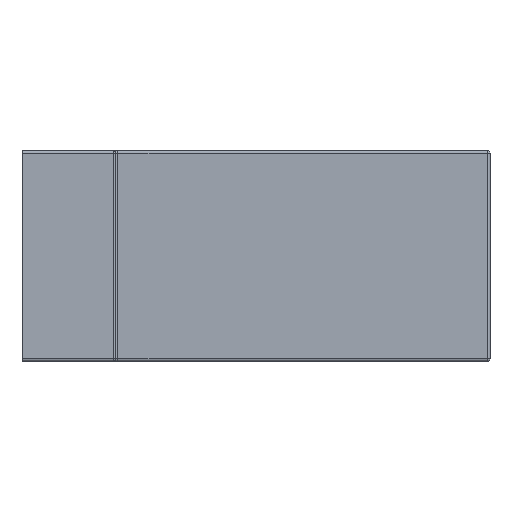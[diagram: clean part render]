
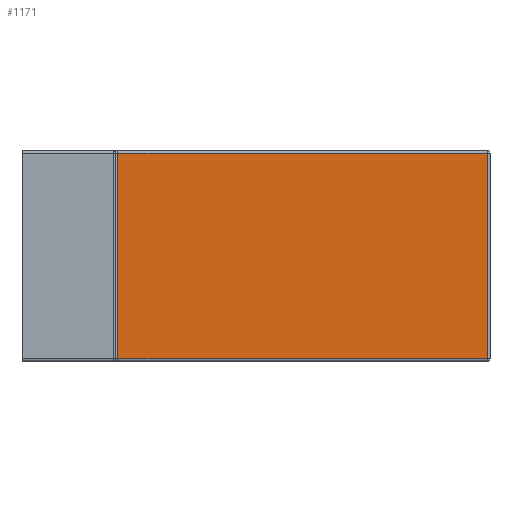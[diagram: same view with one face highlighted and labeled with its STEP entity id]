
A CAD part, front view. The second image highlights one B-rep face of the part: STEP entity #1171.
In plain terms, the highlighted planar face has unit normal (0, -1, 0).
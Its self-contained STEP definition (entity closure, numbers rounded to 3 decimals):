
#41 = CARTESIAN_POINT ( 'NONE',  ( 0., 18., 9. ) ) ;
#64 = EDGE_LOOP ( 'NONE', ( #314, #1132, #1124, #768 ) ) ;
#88 = LINE ( 'NONE', #517, #1396 ) ;
#169 = DIRECTION ( 'NONE',  ( 0., 1., 0. ) ) ;
#180 = CARTESIAN_POINT ( 'NONE',  ( 0.2, 18., 8.8 ) ) ;
#205 = EDGE_CURVE ( 'NONE', #394, #540, #351, .T. ) ;
#226 = DIRECTION ( 'NONE',  ( 1., 0., 0. ) ) ;
#245 = EDGE_CURVE ( 'NONE', #803, #441, #342, .T. ) ;
#251 = CARTESIAN_POINT ( 'NONE',  ( 0., 18., -8.8 ) ) ;
#314 = ORIENTED_EDGE ( 'NONE', *, *, #205, .T. ) ;
#342 = LINE ( 'NONE', #809, #1231 ) ;
#351 = LINE ( 'NONE', #251, #1066 ) ;
#394 = VERTEX_POINT ( 'NONE', #1040 ) ;
#417 = EDGE_CURVE ( 'NONE', #540, #803, #824, .T. ) ;
#441 = VERTEX_POINT ( 'NONE', #180 ) ;
#506 = PLANE ( 'NONE',  #583 ) ;
#517 = CARTESIAN_POINT ( 'NONE',  ( 0.2, 18., -9. ) ) ;
#540 = VERTEX_POINT ( 'NONE', #1068 ) ;
#583 = AXIS2_PLACEMENT_3D ( 'NONE', #41, #169, #812 ) ;
#603 = CARTESIAN_POINT ( 'NONE',  ( 31.8, 18., 9. ) ) ;
#768 = ORIENTED_EDGE ( 'NONE', *, *, #1393, .T. ) ;
#795 = DIRECTION ( 'NONE',  ( -1., 0., 0. ) ) ;
#803 = VERTEX_POINT ( 'NONE', #1148 ) ;
#809 = CARTESIAN_POINT ( 'NONE',  ( 0., 18., 8.8 ) ) ;
#812 = DIRECTION ( 'NONE',  ( 0., 0., 1. ) ) ;
#824 = LINE ( 'NONE', #603, #1182 ) ;
#1033 = DIRECTION ( 'NONE',  ( 0., 0., 1. ) ) ;
#1040 = CARTESIAN_POINT ( 'NONE',  ( 0.2, 18., -8.8 ) ) ;
#1066 = VECTOR ( 'NONE', #226, 1000. ) ;
#1068 = CARTESIAN_POINT ( 'NONE',  ( 31.8, 18., -8.8 ) ) ;
#1124 = ORIENTED_EDGE ( 'NONE', *, *, #245, .T. ) ;
#1132 = ORIENTED_EDGE ( 'NONE', *, *, #417, .T. ) ;
#1148 = CARTESIAN_POINT ( 'NONE',  ( 31.8, 18., 8.8 ) ) ;
#1163 = DIRECTION ( 'NONE',  ( 0., 0., -1. ) ) ;
#1171 = ADVANCED_FACE ( 'NONE', ( #1358 ), #506, .F. ) ;
#1182 = VECTOR ( 'NONE', #1033, 1000. ) ;
#1231 = VECTOR ( 'NONE', #795, 1000. ) ;
#1358 = FACE_OUTER_BOUND ( 'NONE', #64, .T. ) ;
#1393 = EDGE_CURVE ( 'NONE', #441, #394, #88, .T. ) ;
#1396 = VECTOR ( 'NONE', #1163, 1000. ) ;
